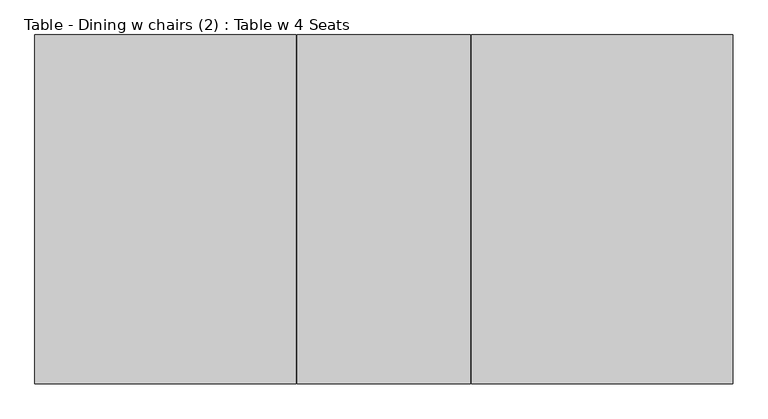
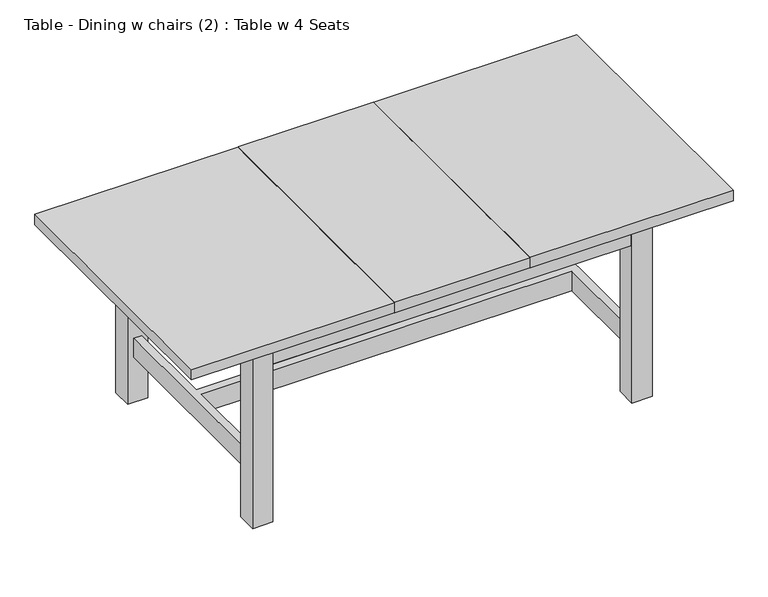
"""IFC4 building model written with IfcOpenShell, lengths in millimetres: furniture geometry, Table - Dining w chairs (2) : Table w 4 Seats."""

import ifcopenshell
import ifcopenshell.guid

model = None  # the IFC model being written
_history = None  # IfcOwnerHistory: only IFC2X3 demands one
_inside = {}  # id of a spatial element -> (the spatial element, [elements in it])
_under = {}  # id of a project, library or spatial element -> (it, [spatial elements below it])
_declared = {}  # id of a project -> (the project, [libraries it declares])
_typed = {}  # id of a type object -> (the type object, [elements of that type])
_made_of = {}  # id of a material, layer set ... -> (it, [elements and type objects made of it])


def new_model(schema):
    """Start an empty IFC model of exactly this schema.

    Asked for "IFC4X3", IfcOpenShell would pick the latest addendum, in which some entities
    have other attributes; the version numbers below select the first issue.
    IFC2X3 requires an IfcOwnerHistory on every rooted entity: one is made here for all.
    """
    global model, _history
    if schema == "IFC4X3":
        model = ifcopenshell.file(schema_version=(4, 3, 0, 0))
    else:
        model = ifcopenshell.file(schema=schema)
    _inside.clear()
    _under.clear()
    _declared.clear()
    _typed.clear()
    _made_of.clear()
    _history = None
    if model.schema == "IFC2X3":
        org = make("IfcOrganization", Name="unknown")
        user = make(
            "IfcPersonAndOrganization",
            ThePerson=make("IfcPerson", FamilyName="unknown"),
            TheOrganization=org,
        )
        app = make(
            "IfcApplication",
            ApplicationDeveloper=org,
            Version="unknown",
            ApplicationFullName="unknown",
            ApplicationIdentifier="unknown",
        )
        _history = make(
            "IfcOwnerHistory",
            OwningUser=user,
            OwningApplication=app,
            ChangeAction="ADDED",
            CreationDate=0,
        )
    return model


def make(cls, **values):
    """One entity of the class cls with the attributes given. An attribute that is None is left unset."""
    return model.create_entity(
        cls, **{name: value for name, value in values.items() if value is not None}
    )


def rooted(cls, **values):
    """An entity with a GlobalId (a new one), such as an element, a storey or a relation."""
    return make(cls, GlobalId=ifcopenshell.guid.new(), OwnerHistory=_history, **values)


def si_unit(unit_type, name, prefix=None):
    """IfcSIUnit, for example si_unit("LENGTHUNIT", "METRE", prefix="MILLI")."""
    return make("IfcSIUnit", UnitType=unit_type, Prefix=prefix, Name=name)


def assignment(units):
    """IfcUnitAssignment: the units of a project."""
    return None if units is None else make("IfcUnitAssignment", Units=units)


def point(xyz):
    """IfcCartesianPoint."""
    return None if xyz is None else make("IfcCartesianPoint", Coordinates=xyz)


def direction(xyz):
    """IfcDirection."""
    return None if xyz is None else make("IfcDirection", DirectionRatios=xyz)


def frame(location, z_axis=None, x_axis=None):
    """IfcAxis2Placement3D, a coordinate frame: its origin and axes. An axis left out is left unset."""
    return make(
        "IfcAxis2Placement3D",
        Location=point(location),
        Axis=direction(z_axis),
        RefDirection=direction(x_axis),
    )


def origin():
    """The frame at (0, 0, 0) with its axes left unset."""
    return frame((0.0, 0.0, 0.0))


def origin_with_axes():
    """The frame at (0, 0, 0) with the z axis (0, 0, 1) and the x axis (1, 0, 0) written out."""
    return frame((0.0, 0.0, 0.0), z_axis=(0.0, 0.0, 1.0), x_axis=(1.0, 0.0, 0.0))


def place(relative_to, where):
    """IfcLocalPlacement: puts the frame where relative to a parent placement (None: the world)."""
    return make(
        "IfcLocalPlacement", PlacementRelTo=relative_to, RelativePlacement=where
    )


def context(
    kind, dimensions, precision=None, world=None, true_north=None, identifier=None
):
    """IfcGeometricRepresentationContext, for example the 3D "Model" context."""
    return make(
        "IfcGeometricRepresentationContext",
        ContextIdentifier=identifier,
        ContextType=kind,
        CoordinateSpaceDimension=dimensions,
        Precision=precision,
        WorldCoordinateSystem=world,
        TrueNorth=true_north,
    )


def project(units=None, contexts=None):
    """IfcProject with its units and contexts."""
    return rooted(
        "IfcProject",
        Name="project",
        RepresentationContexts=contexts,
        UnitsInContext=assignment(units),
    )


def spatial(cls, under=None, at=None, **own):
    """A site, building, storey or space (cls), placed at a placement, below another one or the project."""
    s = rooted(cls, ObjectPlacement=at, **own)
    if under is not None:
        _under.setdefault(under.id(), (under, []))[1].append(s)
    return s


def polyline(points):
    """IfcPolyline through the points."""
    return make("IfcPolyline", Points=[point(p) for p in points])


def outline(outer, holes=None, kind="AREA"):
    """IfcArbitraryClosedProfileDef: a profile drawn as a closed curve; with holes, ...WithVoids."""
    if holes is None:
        return make("IfcArbitraryClosedProfileDef", ProfileType=kind, OuterCurve=outer)
    return make(
        "IfcArbitraryProfileDefWithVoids",
        ProfileType=kind,
        OuterCurve=outer,
        InnerCurves=holes,
    )


def extrude(swept, where, along, depth):
    """IfcExtrudedAreaSolid: the profile swept, set in the frame where, extruded along a direction by depth."""
    return make(
        "IfcExtrudedAreaSolid",
        SweptArea=swept,
        Position=where,
        ExtrudedDirection=direction(along),
        Depth=depth,
    )


def faces_of(points, faces, orient=None, outer=None):
    """IfcFace entities. A face is a list of loops; a loop is a list of indices into points, from 0.

    orient and outer hold one flag for each loop. By default every Orientation is true, the
    first loop of a face is its IfcFaceOuterBound and the others are IfcFaceBound.
    """
    made = []
    for i, loops in enumerate(faces):
        bounds = []
        for j, loop in enumerate(loops):
            is_outer = j == 0 if outer is None else outer[i][j]
            bounds.append(
                make(
                    "IfcFaceOuterBound" if is_outer else "IfcFaceBound",
                    Bound=make("IfcPolyLoop", Polygon=[points[k] for k in loop]),
                    Orientation=True if orient is None else orient[i][j],
                )
            )
        made.append(make("IfcFace", Bounds=bounds))
    return made


def faceted_brep(points, faces, orient=None, outer=None, voids=None):
    """IfcFacetedBrep: a solid bounded by flat faces; with voids (closed shells), ...WithVoids."""
    shared = [point(p) for p in points]
    hull = make("IfcClosedShell", CfsFaces=faces_of(shared, faces, orient, outer))
    if voids is None:
        return make("IfcFacetedBrep", Outer=hull)
    return make(
        "IfcFacetedBrepWithVoids",
        Outer=hull,
        Voids=[
            make(cls, CfsFaces=faces_of(shared, fs, o, b)) for cls, fs, o, b in voids
        ],
    )


def shape(context_of_items, identifier, shape_type, items):
    """IfcShapeRepresentation: the items that make up one representation, for example the "Body"."""
    return make(
        "IfcShapeRepresentation",
        ContextOfItems=context_of_items,
        RepresentationIdentifier=identifier,
        RepresentationType=shape_type,
        Items=items,
    )


def source(mapping_origin, context_of_items, identifier, shape_type, items):
    """IfcRepresentationMap: a shape defined once, which mapped items show again and again."""
    return make(
        "IfcRepresentationMap",
        MappingOrigin=mapping_origin,
        MappedRepresentation=shape(context_of_items, identifier, shape_type, items),
    )


def transform(
    local_origin,
    x_axis=None,
    y_axis=None,
    z_axis=None,
    scale=None,
    scale2=None,
    scale3=None,
    uniform=True,
):
    """IfcCartesianTransformationOperator3D, or its non-uniform kind. x_axis, y_axis, z_axis: its Axis1, 2, 3."""
    if uniform:
        return make(
            "IfcCartesianTransformationOperator3D",
            Axis1=direction(x_axis),
            Axis2=direction(y_axis),
            LocalOrigin=point(local_origin),
            Scale=scale,
            Axis3=direction(z_axis),
        )
    return make(
        "IfcCartesianTransformationOperator3DnonUniform",
        Axis1=direction(x_axis),
        Axis2=direction(y_axis),
        LocalOrigin=point(local_origin),
        Scale=scale,
        Axis3=direction(z_axis),
        Scale2=scale2,
        Scale3=scale3,
    )


def mapped(mapping_source, mapping_target):
    """IfcMappedItem: shows the shape of a source again, moved by a transform."""
    return make(
        "IfcMappedItem", MappingSource=mapping_source, MappingTarget=mapping_target
    )


def made_of(thing, what):
    """Note that an element or type object is made of a material, layer set ...; save() writes the relation."""
    if what is not None:
        _made_of.setdefault(what.id(), (what, []))[1].append(thing)
    return thing


def element(
    cls,
    number,
    at=None,
    inside=None,
    cuts=None,
    type_object=None,
    material=None,
    context=None,
    identifier="Body",
    shape_type=None,
    held_by="IfcProductDefinitionShape",
    body=None,
    shapes=None,
    **own,
):
    """One element of the class cls, such as IfcWall. Its Tag is "e" and its number.

    at: its placement. inside: the storey or other place that contains it. cuts: it is an
    opening in that element (IfcRelVoidsElement). A single representation is given by context,
    identifier, shape_type and body (its items); several are given by shapes. held_by: the class
    of the entity that holds the representations. save() writes the other relations.
    """
    e = rooted(cls, Tag="e%d" % number, ObjectPlacement=at, **own)
    if body is not None:
        shapes = [shape(context, identifier, shape_type, body)]
    if shapes is not None:
        e.Representation = make(held_by, Representations=shapes)
    if inside is not None:
        _inside.setdefault(inside.id(), (inside, []))[1].append(e)
    if cuts is not None:
        rooted(
            "IfcRelVoidsElement", RelatingBuildingElement=cuts, RelatedOpeningElement=e
        )
    if type_object is not None:
        _typed.setdefault(type_object.id(), (type_object, []))[1].append(e)
    return made_of(e, material)


def aggregate(whole, parts):
    """IfcRelAggregates: a whole, such as a stair, and the parts it consists of."""
    return rooted("IfcRelAggregates", RelatingObject=whole, RelatedObjects=parts)


def save(model, path):
    """Write the relations noted so far, then the file.

    IfcRelAggregates (storeys below a building ...), IfcRelContainedInSpatialStructure (elements
    in a storey), IfcRelDefinesByType, IfcRelAssociatesMaterial and IfcRelDeclares: one each for
    every whole, place, type object, material and project.
    """
    for whole, parts in _under.values():
        aggregate(whole, parts)
    for where, things in _inside.values():
        rooted(
            "IfcRelContainedInSpatialStructure",
            RelatedElements=things,
            RelatingStructure=where,
        )
    for kind, things in _typed.values():
        rooted("IfcRelDefinesByType", RelatedObjects=things, RelatingType=kind)
    for what, things in _made_of.values():
        rooted("IfcRelAssociatesMaterial", RelatedObjects=things, RelatingMaterial=what)
    for by, libraries in _declared.values():
        rooted("IfcRelDeclares", RelatingContext=by, RelatedDefinitions=libraries)
    model.write(path)


def table_dining_w_chairs_2_table_w_4_seats_080c21d9(model_context):
    return source(origin(), model_context, "Body", "SolidModel", [
        extrude(outline(polyline([(-544.3212781, 474.3546292), (780.6787219, 474.3546292), (780.6787219, 454.3546292), (-544.3212781, 454.3546292), (-544.3212781, 474.3546292)])), frame((0.0, 0.0, 610.0), z_axis=(0.0, 0.0, 1.0), x_axis=(1.0, 0.0, 0.0)), (0.0, 0.0, 1.0), 100.0),
        extrude(outline(polyline([(-611.8212781, -318.1453708), (-611.8212781, 406.8546292), (-591.8212781, 406.8546292), (-591.8212781, -318.1453708), (-611.8212781, -318.1453708)])), frame((0.0, 0.0, 610.0), z_axis=(0.0, 0.0, 1.0), x_axis=(1.0, 0.0, 0.0)), (0.0, 0.0, 1.0), 100.0),
        extrude(outline(polyline([(780.6787219, -385.6453708), (-544.3212781, -385.6453708), (-544.3212781, -365.6453708), (780.6787219, -365.6453708), (780.6787219, -385.6453708)])), frame((0.0, 0.0, 610.0), z_axis=(0.0, 0.0, 1.0), x_axis=(1.0, 0.0, 0.0)), (0.0, 0.0, 1.0), 100.0),
        extrude(outline(polyline([(848.1787219, 406.8546292), (848.1787219, -318.1453708), (828.1787219, -318.1453708), (828.1787219, 406.8546292), (848.1787219, 406.8546292)])), frame((0.0, 0.0, 610.0), z_axis=(0.0, 0.0, 1.0), x_axis=(1.0, 0.0, 0.0)), (0.0, 0.0, 1.0), 100.0),
        extrude(outline(polyline([(-566.8212781, -318.1453708), (-596.8212781, -318.1453708), (-596.8212781, 406.8546292), (-566.8212781, 406.8546292), (-566.8212781, 59.3546292), (803.1787219, 59.3546292), (803.1787219, 406.8546292), (833.1787219, 406.8546292), (833.1787219, -318.1453708), (803.1787219, -318.1453708), (803.1787219, 29.3546292), (-566.8212781, 29.3546292), (-566.8212781, -318.1453708)])), frame((0.0, 0.0, 175.0), z_axis=(0.0, 0.0, 1.0), x_axis=(1.0, 0.0, 0.0)), (0.0, 0.0, 1.0), 75.0),
        extrude(outline(polyline([(-544.3212781, -393.1453708), (-619.3212781, -393.1453708), (-619.3212781, -318.1453708), (-544.3212781, -318.1453708), (-544.3212781, -393.1453708)])), origin_with_axes(), (0.0, 0.0, 1.0), 710.0),
        extrude(outline(polyline([(780.6787219, 481.8546292), (855.6787219, 481.8546292), (855.6787219, 406.8546292), (780.6787219, 406.8546292), (780.6787219, 481.8546292)])), origin_with_axes(), (0.0, 0.0, 1.0), 710.0),
        extrude(outline(polyline([(780.6787219, -318.1453708), (855.6787219, -318.1453708), (855.6787219, -393.1453708), (780.6787219, -393.1453708), (780.6787219, -318.1453708)])), origin_with_axes(), (0.0, 0.0, 1.0), 710.0),
        extrude(outline(polyline([(-544.3212781, 481.8546292), (-544.3212781, 406.8546292), (-619.3212781, 406.8546292), (-619.3212781, 481.8546292), (-544.3212781, 481.8546292)])), origin_with_axes(), (0.0, 0.0, 1.0), 710.0),
        faceted_brep([(1118.1787219, -455.6453708, 750.0), (1118.1787219, 544.3546292, 750.0), (369.6787219, 544.3546292, 750.0), (369.6787219, -455.6453708, 750.0), (-881.8212781, 544.3546292, 750.0), (-881.8212781, -455.6453708, 750.0), (-133.3212781, -455.6453708, 750.0), (-133.3212781, 544.3546292, 750.0), (366.6787219, 544.3546292, 750.0), (-130.3212781, 544.3546292, 750.0), (-130.3212781, -455.6453708, 750.0), (366.6787219, -455.6453708, 750.0), (-881.8212781, -455.6453708, 710.0), (-881.8212781, 544.3546292, 710.0), (-133.3212781, 544.3546292, 710.0), (-131.8212781, 542.8546292, 710.0), (-130.3212781, 544.3546292, 710.0), (366.6787219, 544.3546292, 710.0), (368.1787219, 542.8546292, 710.0), (369.6787219, 544.3546292, 710.0), (1118.1787219, 544.3546292, 710.0), (1118.1787219, -455.6453708, 710.0), (369.6787219, -455.6453708, 710.0), (368.1787219, -454.1453708, 710.0), (366.6787219, -455.6453708, 710.0), (-130.3212781, -455.6453708, 710.0), (-131.8212781, -454.1453708, 710.0), (-133.3212781, -455.6453708, 710.0), (-131.8212781, 542.8546292, 748.5), (368.1787219, 542.8546292, 748.5), (-131.8212781, -454.1453708, 748.5), (368.1787219, -454.1453708, 748.5)], [[[0, 1, 2, 3]], [[4, 5, 6, 7]], [[8, 9, 10, 11]], [[12, 13, 14, 15, 16, 17, 18, 19, 20, 21, 22, 23, 24, 25, 26, 27]], [[1, 0, 21, 20]], [[9, 8, 17, 16]], [[1, 20, 19, 2]], [[13, 4, 7, 14]], [[5, 4, 13, 12]], [[11, 10, 25, 24]], [[21, 0, 3, 22]], [[5, 12, 27, 6]], [[15, 28, 9, 16]], [[28, 15, 14, 7]], [[18, 29, 2, 19]], [[29, 18, 17, 8]], [[9, 28, 30, 10]], [[28, 7, 6, 30]], [[2, 29, 31, 3]], [[29, 8, 11, 31]], [[10, 30, 26, 25]], [[30, 6, 27, 26]], [[3, 31, 23, 22]], [[31, 11, 24, 23]]]),
    ])


if __name__ == "__main__":
    model = new_model("IFC4")
    model_context = context("Model", 3, world=origin())
    ifc_project = project(units=[si_unit("LENGTHUNIT", "METRE", prefix="MILLI")], contexts=[model_context])
    site = spatial("IfcSite", under=ifc_project)
    building = spatial("IfcBuilding", under=site)
    placement = place(None, origin())
    table_dining_w_chairs_2_table_w_4_seats_shape = table_dining_w_chairs_2_table_w_4_seats_080c21d9(model_context)
    element("IfcFurniture", 1, ObjectType="Table - Dining w chairs (2) : Table w 4 Seats", at=placement, inside=building, context=model_context, shape_type="MappedRepresentation", body=[
        mapped(table_dining_w_chairs_2_table_w_4_seats_shape, transform((0.0, 0.0, 0.0), x_axis=(1.0, 0.0, 0.0), y_axis=(0.0, 1.0, 0.0), z_axis=(0.0, 0.0, 1.0))),
    ])
    save(model, "model.ifc")
